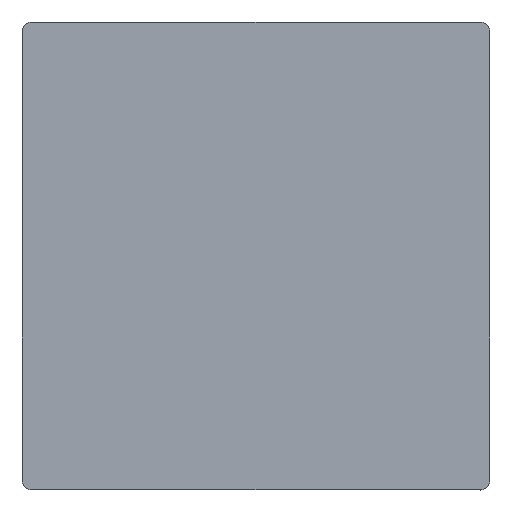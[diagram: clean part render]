
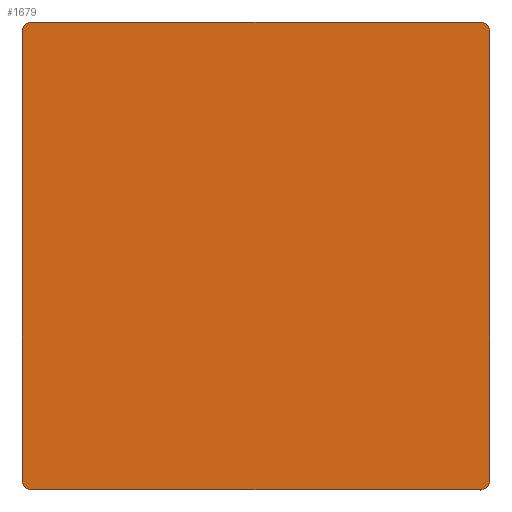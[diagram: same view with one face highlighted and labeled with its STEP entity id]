
A CAD part, top view. The second image highlights one B-rep face of the part: STEP entity #1679.
In plain terms, the highlighted planar face has unit normal (0, 0, 1).
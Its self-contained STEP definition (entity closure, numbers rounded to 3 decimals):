
#780=(
BOUNDED_CURVE()
B_SPLINE_CURVE(2,(#27997,#27998,#27999),.UNSPECIFIED.,.F.,.F.)
B_SPLINE_CURVE_WITH_KNOTS((3,3),(-28.117,0.),.UNSPECIFIED.)
CURVE()
GEOMETRIC_REPRESENTATION_ITEM()
RATIONAL_B_SPLINE_CURVE((1.,0.707,1.))
REPRESENTATION_ITEM('')
);
#782=(
BOUNDED_CURVE()
B_SPLINE_CURVE(2,(#28011,#28012,#28013),.UNSPECIFIED.,.F.,.F.)
B_SPLINE_CURVE_WITH_KNOTS((3,3),(-28.117,0.),.UNSPECIFIED.)
CURVE()
GEOMETRIC_REPRESENTATION_ITEM()
RATIONAL_B_SPLINE_CURVE((1.,0.707,1.))
REPRESENTATION_ITEM('')
);
#784=(
BOUNDED_CURVE()
B_SPLINE_CURVE(2,(#28025,#28026,#28027),.UNSPECIFIED.,.F.,.F.)
B_SPLINE_CURVE_WITH_KNOTS((3,3),(-28.117,0.),.UNSPECIFIED.)
CURVE()
GEOMETRIC_REPRESENTATION_ITEM()
RATIONAL_B_SPLINE_CURVE((1.,0.707,1.))
REPRESENTATION_ITEM('')
);
#786=(
BOUNDED_CURVE()
B_SPLINE_CURVE(2,(#28039,#28040,#28041),.UNSPECIFIED.,.F.,.F.)
B_SPLINE_CURVE_WITH_KNOTS((3,3),(-28.117,0.),.UNSPECIFIED.)
CURVE()
GEOMETRIC_REPRESENTATION_ITEM()
RATIONAL_B_SPLINE_CURVE((1.,0.707,1.))
REPRESENTATION_ITEM('')
);
#1679=ADVANCED_FACE('',(#2237),#8863,.T.);
#2237=FACE_OUTER_BOUND('',#2887,.T.);
#2887=EDGE_LOOP('',(#5267,#5268,#5269,#5270,#5271,#5272,#5273,#5274));
#5267=ORIENTED_EDGE('',*,*,#6919,.T.);
#5268=ORIENTED_EDGE('',*,*,#6916,.T.);
#5269=ORIENTED_EDGE('',*,*,#6913,.T.);
#5270=ORIENTED_EDGE('',*,*,#6910,.T.);
#5271=ORIENTED_EDGE('',*,*,#6907,.T.);
#5272=ORIENTED_EDGE('',*,*,#6927,.T.);
#5273=ORIENTED_EDGE('',*,*,#6925,.T.);
#5274=ORIENTED_EDGE('',*,*,#6922,.T.);
#6907=EDGE_CURVE('',#8618,#8617,#780,.T.);
#6910=EDGE_CURVE('',#8620,#8618,#7672,.T.);
#6913=EDGE_CURVE('',#8622,#8620,#782,.T.);
#6916=EDGE_CURVE('',#8624,#8622,#7676,.T.);
#6919=EDGE_CURVE('',#8626,#8624,#784,.T.);
#6922=EDGE_CURVE('',#8628,#8626,#7680,.T.);
#6925=EDGE_CURVE('',#8630,#8628,#786,.T.);
#6927=EDGE_CURVE('',#8617,#8630,#7683,.T.);
#7672=B_SPLINE_CURVE_WITH_KNOTS('',1,(#28004,#28005),.UNSPECIFIED.,.F.,
 .F.,(2,2),(-20.355,61.065),.UNSPECIFIED.);
#7676=B_SPLINE_CURVE_WITH_KNOTS('',1,(#28018,#28019),.UNSPECIFIED.,.F.,
 .F.,(2,2),(-20.355,61.065),.UNSPECIFIED.);
#7680=B_SPLINE_CURVE_WITH_KNOTS('',1,(#28032,#28033),.UNSPECIFIED.,.F.,
 .F.,(2,2),(-20.355,61.065),.UNSPECIFIED.);
#7683=B_SPLINE_CURVE_WITH_KNOTS('',1,(#28044,#28045),.UNSPECIFIED.,.F.,
 .F.,(2,2),(-20.355,61.065),.UNSPECIFIED.);
#8617=VERTEX_POINT('',#26818);
#8618=VERTEX_POINT('',#26819);
#8620=VERTEX_POINT('',#26821);
#8622=VERTEX_POINT('',#26823);
#8624=VERTEX_POINT('',#26825);
#8626=VERTEX_POINT('',#26827);
#8628=VERTEX_POINT('',#26829);
#8630=VERTEX_POINT('',#26831);
#8863=PLANE('',#9117);
#9117=AXIS2_PLACEMENT_3D('',#26006,#9355,$);
#9355=DIRECTION('',(0.,0.,1.));
#26006=CARTESIAN_POINT('',(-9.1,-464.46,18.498));
#26818=CARTESIAN_POINT('',(823.01,385.55,18.498));
#26819=CARTESIAN_POINT('',(840.91,367.65,18.498));
#26821=CARTESIAN_POINT('',(840.91,-446.55,18.498));
#26823=CARTESIAN_POINT('',(823.01,-464.45,18.498));
#26825=CARTESIAN_POINT('',(8.81,-464.45,18.498));
#26827=CARTESIAN_POINT('',(-9.09,-446.55,18.498));
#26829=CARTESIAN_POINT('',(-9.09,367.65,18.498));
#26831=CARTESIAN_POINT('',(8.81,385.55,18.498));
#27997=CARTESIAN_POINT('',(840.91,367.65,18.498));
#27998=CARTESIAN_POINT('',(840.91,385.55,18.498));
#27999=CARTESIAN_POINT('',(823.01,385.55,18.498));
#28004=CARTESIAN_POINT('',(840.91,-446.55,18.498));
#28005=CARTESIAN_POINT('',(840.91,367.65,18.498));
#28011=CARTESIAN_POINT('',(823.01,-464.45,18.498));
#28012=CARTESIAN_POINT('',(840.91,-464.45,18.498));
#28013=CARTESIAN_POINT('',(840.91,-446.55,18.498));
#28018=CARTESIAN_POINT('',(8.81,-464.45,18.498));
#28019=CARTESIAN_POINT('',(823.01,-464.45,18.498));
#28025=CARTESIAN_POINT('',(-9.09,-446.55,18.498));
#28026=CARTESIAN_POINT('',(-9.09,-464.45,18.498));
#28027=CARTESIAN_POINT('',(8.81,-464.45,18.498));
#28032=CARTESIAN_POINT('',(-9.09,367.65,18.498));
#28033=CARTESIAN_POINT('',(-9.09,-446.55,18.498));
#28039=CARTESIAN_POINT('',(8.81,385.55,18.498));
#28040=CARTESIAN_POINT('',(-9.09,385.55,18.498));
#28041=CARTESIAN_POINT('',(-9.09,367.65,18.498));
#28044=CARTESIAN_POINT('',(823.01,385.55,18.498));
#28045=CARTESIAN_POINT('',(8.81,385.55,18.498));
